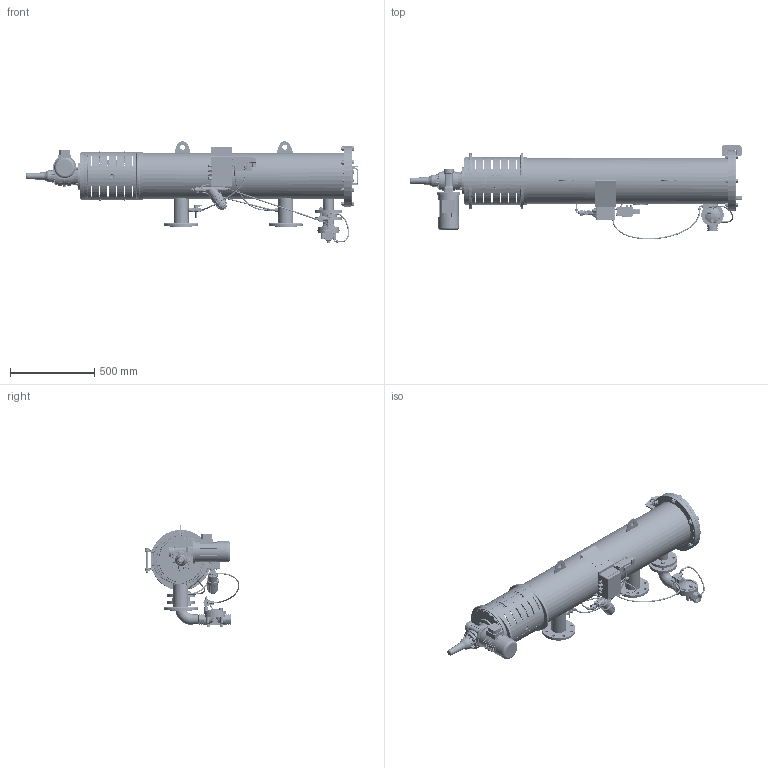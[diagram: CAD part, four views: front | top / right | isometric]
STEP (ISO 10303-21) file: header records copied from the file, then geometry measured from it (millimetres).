
FILE_DESCRIPTION (( 'STEP AP214' ), '1' );
FILE_NAME ('041043-000033.STEP', '2023-02-07T11:40:42', ( '' ), ( '' ), 'SwSTEP 2.0', 'SolidWorks 2019', '' );
FILE_SCHEMA (( 'AUTOMOTIVE_DESIGN' ));
Length unit declared in the file: millimetre
Products named in the file (1): 041043-000033
Bounding box: 1967.82 x 561.89 x 601.35 mm (x, y, z)
Volume: 22088387 mm3; surface area: 6030072.2 mm2
Topology: 280 solids, 285 shells, 16255 faces, 39601 edges, 24229 vertices
Faces by surface type: plane 8531, bspline 2639, cylinder 2628, cone 1325, torus 904, sphere 228
Full cylindrical faces by diameter (mm): 1.2 x10, 2 x2, 2.381 x2, 2.4 x1, 3 x3, 3.141 x4, 3.5 x5, 3.9 x4, 4 x24, 4.134 x1, 4.166 x2, 4.2 x1, 4.3 x4, 4.4 x2, 4.7 x2, 4.75 x12, 4.763 x2, 4.773 x5, 4.917 x2, 4.971 x1, 5 x18, 5.7 x9, 6 x41, 6.2 x3, 6.5 x14, 6.6 x3, 6.858 x2, 7 x10, 7.137 x35, 7.187 x1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
Entity records: 847349 total; most frequent: CARTESIAN_POINT 323102, ORIENTED_EDGE 74320, DIRECTION 63995, EDGE_CURVE 37160, AXIS2_PLACEMENT_3D 23927, VERTEX_POINT 23737, EDGE_LOOP 19251, FACE_OUTER_BOUND 17326
